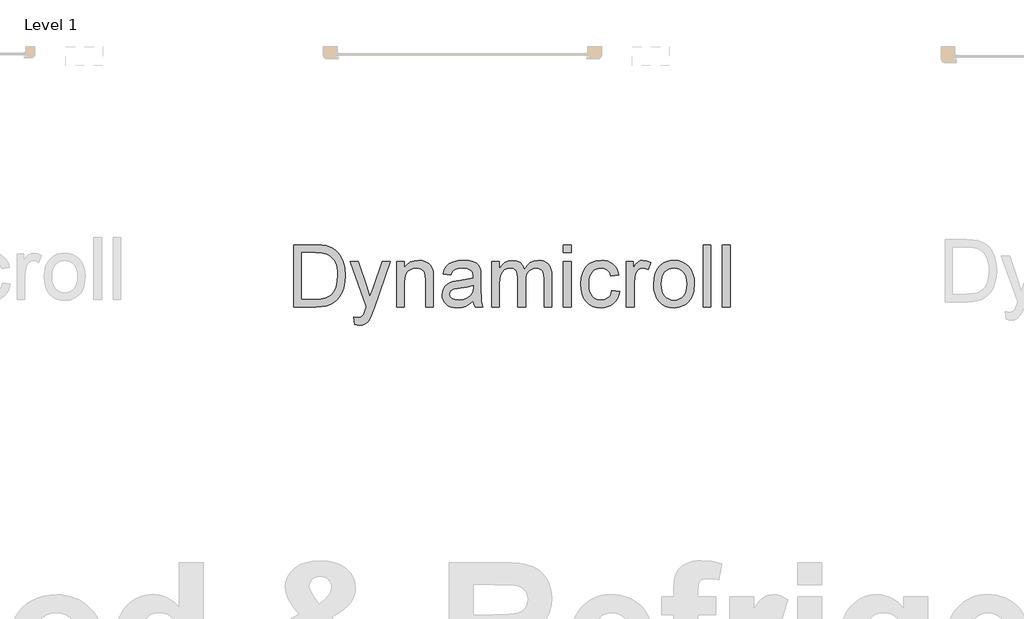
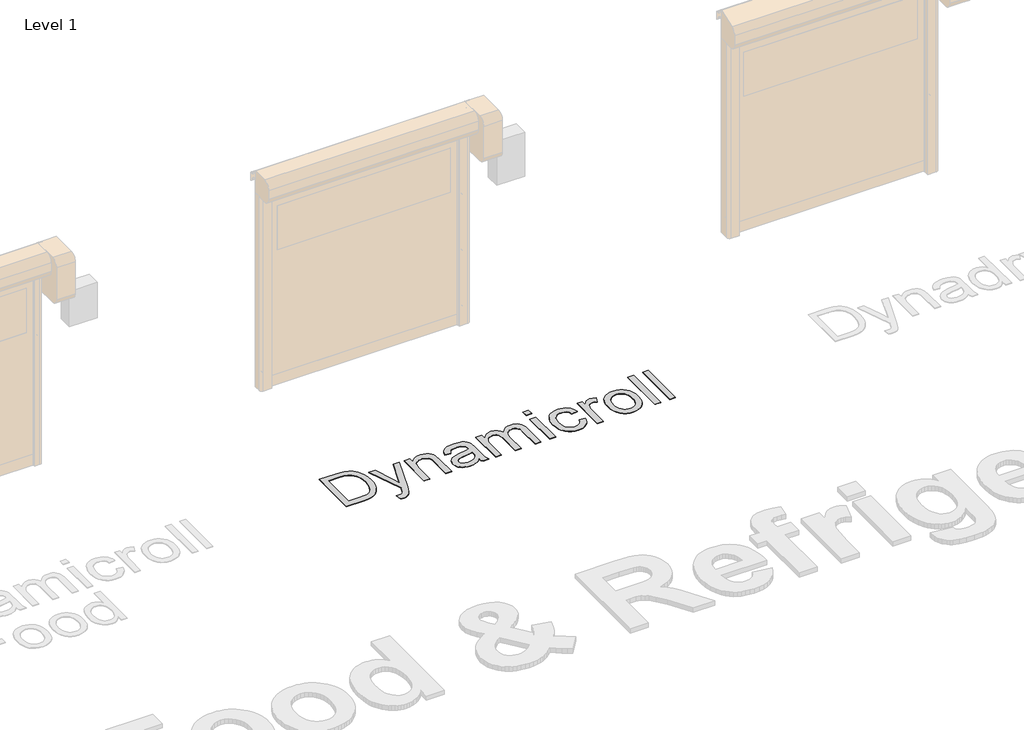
# One storey, part 2 of 17: 1 proxy.
"""IFC4 building model written with IfcOpenShell, lengths in millimetres."""

import ifcopenshell
import ifcopenshell.guid

model = None  # the IFC model being written
_history = None  # IfcOwnerHistory: only IFC2X3 demands one
_inside = {}  # id of a spatial element -> (the spatial element, [elements in it])
_under = {}  # id of a project, library or spatial element -> (it, [spatial elements below it])
_declared = {}  # id of a project -> (the project, [libraries it declares])
_typed = {}  # id of a type object -> (the type object, [elements of that type])
_made_of = {}  # id of a material, layer set ... -> (it, [elements and type objects made of it])


def new_model(schema):
    """Start an empty IFC model of exactly this schema.

    Asked for "IFC4X3", IfcOpenShell would pick the latest addendum, in which some entities
    have other attributes; the version numbers below select the first issue.
    IFC2X3 requires an IfcOwnerHistory on every rooted entity: one is made here for all.
    """
    global model, _history
    if schema == "IFC4X3":
        model = ifcopenshell.file(schema_version=(4, 3, 0, 0))
    else:
        model = ifcopenshell.file(schema=schema)
    _inside.clear()
    _under.clear()
    _declared.clear()
    _typed.clear()
    _made_of.clear()
    _history = None
    if model.schema == "IFC2X3":
        org = make("IfcOrganization", Name="unknown")
        user = make(
            "IfcPersonAndOrganization",
            ThePerson=make("IfcPerson", FamilyName="unknown"),
            TheOrganization=org,
        )
        app = make(
            "IfcApplication",
            ApplicationDeveloper=org,
            Version="unknown",
            ApplicationFullName="unknown",
            ApplicationIdentifier="unknown",
        )
        _history = make(
            "IfcOwnerHistory",
            OwningUser=user,
            OwningApplication=app,
            ChangeAction="ADDED",
            CreationDate=0,
        )
    return model


def make(cls, **values):
    """One entity of the class cls with the attributes given. An attribute that is None is left unset."""
    return model.create_entity(
        cls, **{name: value for name, value in values.items() if value is not None}
    )


def rooted(cls, **values):
    """An entity with a GlobalId (a new one), such as an element, a storey or a relation."""
    return make(cls, GlobalId=ifcopenshell.guid.new(), OwnerHistory=_history, **values)


def si_unit(unit_type, name, prefix=None):
    """IfcSIUnit, for example si_unit("LENGTHUNIT", "METRE", prefix="MILLI")."""
    return make("IfcSIUnit", UnitType=unit_type, Prefix=prefix, Name=name)


def assignment(units):
    """IfcUnitAssignment: the units of a project."""
    return None if units is None else make("IfcUnitAssignment", Units=units)


def point(xyz):
    """IfcCartesianPoint."""
    return None if xyz is None else make("IfcCartesianPoint", Coordinates=xyz)


def direction(xyz):
    """IfcDirection."""
    return None if xyz is None else make("IfcDirection", DirectionRatios=xyz)


def frame(location, z_axis=None, x_axis=None):
    """IfcAxis2Placement3D, a coordinate frame: its origin and axes. An axis left out is left unset."""
    return make(
        "IfcAxis2Placement3D",
        Location=point(location),
        Axis=direction(z_axis),
        RefDirection=direction(x_axis),
    )


def origin():
    """The frame at (0, 0, 0) with its axes left unset."""
    return frame((0.0, 0.0, 0.0))


def origin_with_axes():
    """The frame at (0, 0, 0) with the z axis (0, 0, 1) and the x axis (1, 0, 0) written out."""
    return frame((0.0, 0.0, 0.0), z_axis=(0.0, 0.0, 1.0), x_axis=(1.0, 0.0, 0.0))


def place(relative_to, where):
    """IfcLocalPlacement: puts the frame where relative to a parent placement (None: the world)."""
    return make(
        "IfcLocalPlacement", PlacementRelTo=relative_to, RelativePlacement=where
    )


def context(
    kind, dimensions, precision=None, world=None, true_north=None, identifier=None
):
    """IfcGeometricRepresentationContext, for example the 3D "Model" context."""
    return make(
        "IfcGeometricRepresentationContext",
        ContextIdentifier=identifier,
        ContextType=kind,
        CoordinateSpaceDimension=dimensions,
        Precision=precision,
        WorldCoordinateSystem=world,
        TrueNorth=true_north,
    )


def project(units=None, contexts=None):
    """IfcProject with its units and contexts."""
    return rooted(
        "IfcProject",
        Name="project",
        RepresentationContexts=contexts,
        UnitsInContext=assignment(units),
    )


def spatial(cls, under=None, at=None, **own):
    """A site, building, storey or space (cls), placed at a placement, below another one or the project."""
    s = rooted(cls, ObjectPlacement=at, **own)
    if under is not None:
        _under.setdefault(under.id(), (under, []))[1].append(s)
    return s


def polyline(points):
    """IfcPolyline through the points."""
    return make("IfcPolyline", Points=[point(p) for p in points])


def outline(outer, holes=None, kind="AREA"):
    """IfcArbitraryClosedProfileDef: a profile drawn as a closed curve; with holes, ...WithVoids."""
    if holes is None:
        return make("IfcArbitraryClosedProfileDef", ProfileType=kind, OuterCurve=outer)
    return make(
        "IfcArbitraryProfileDefWithVoids",
        ProfileType=kind,
        OuterCurve=outer,
        InnerCurves=holes,
    )


def extrude(swept, where, along, depth):
    """IfcExtrudedAreaSolid: the profile swept, set in the frame where, extruded along a direction by depth."""
    return make(
        "IfcExtrudedAreaSolid",
        SweptArea=swept,
        Position=where,
        ExtrudedDirection=direction(along),
        Depth=depth,
    )


def shape(context_of_items, identifier, shape_type, items):
    """IfcShapeRepresentation: the items that make up one representation, for example the "Body"."""
    return make(
        "IfcShapeRepresentation",
        ContextOfItems=context_of_items,
        RepresentationIdentifier=identifier,
        RepresentationType=shape_type,
        Items=items,
    )


def made_of(thing, what):
    """Note that an element or type object is made of a material, layer set ...; save() writes the relation."""
    if what is not None:
        _made_of.setdefault(what.id(), (what, []))[1].append(thing)
    return thing


def element(
    cls,
    number,
    at=None,
    inside=None,
    cuts=None,
    type_object=None,
    material=None,
    context=None,
    identifier="Body",
    shape_type=None,
    held_by="IfcProductDefinitionShape",
    body=None,
    shapes=None,
    **own,
):
    """One element of the class cls, such as IfcWall. Its Tag is "e" and its number.

    at: its placement. inside: the storey or other place that contains it. cuts: it is an
    opening in that element (IfcRelVoidsElement). A single representation is given by context,
    identifier, shape_type and body (its items); several are given by shapes. held_by: the class
    of the entity that holds the representations. save() writes the other relations.
    """
    e = rooted(cls, Tag="e%d" % number, ObjectPlacement=at, **own)
    if body is not None:
        shapes = [shape(context, identifier, shape_type, body)]
    if shapes is not None:
        e.Representation = make(held_by, Representations=shapes)
    if inside is not None:
        _inside.setdefault(inside.id(), (inside, []))[1].append(e)
    if cuts is not None:
        rooted(
            "IfcRelVoidsElement", RelatingBuildingElement=cuts, RelatedOpeningElement=e
        )
    if type_object is not None:
        _typed.setdefault(type_object.id(), (type_object, []))[1].append(e)
    return made_of(e, material)


def aggregate(whole, parts):
    """IfcRelAggregates: a whole, such as a stair, and the parts it consists of."""
    return rooted("IfcRelAggregates", RelatingObject=whole, RelatedObjects=parts)


def save(model, path):
    """Write the relations noted so far, then the file.

    IfcRelAggregates (storeys below a building ...), IfcRelContainedInSpatialStructure (elements
    in a storey), IfcRelDefinesByType, IfcRelAssociatesMaterial and IfcRelDeclares: one each for
    every whole, place, type object, material and project.
    """
    for whole, parts in _under.values():
        aggregate(whole, parts)
    for where, things in _inside.values():
        rooted(
            "IfcRelContainedInSpatialStructure",
            RelatedElements=things,
            RelatingStructure=where,
        )
    for kind, things in _typed.values():
        rooted("IfcRelDefinesByType", RelatedObjects=things, RelatingType=kind)
    for what, things in _made_of.values():
        rooted("IfcRelAssociatesMaterial", RelatedObjects=things, RelatingMaterial=what)
    for by, libraries in _declared.values():
        rooted("IfcRelDeclares", RelatingContext=by, RelatedDefinitions=libraries)
    model.write(path)


model = new_model("IFC4")

# Units and contexts
model_context = context("Model", 3, world=origin())
ifc_project = project(units=[si_unit("LENGTHUNIT", "METRE", prefix="MILLI")], contexts=[model_context])

# Site, building, storey
site = spatial("IfcSite", under=ifc_project)
building = spatial("IfcBuilding", under=site)
storey = spatial("IfcBuildingStorey", under=building, Name="Level 1", Elevation=0.0)

# Proxy
placement = place(None, origin())
element("IfcBuildingElementProxy", 1, Name="500mm", ObjectType="500mm", at=placement, inside=storey, context=model_context, shape_type="SweptSolid", body=[
    extrude(outline(polyline([(5132.2974666, 7547.2366873), (5132.2974666, 8049.5182381), (5305.5698863, 8049.5182381), (5357.3492772, 8047.7094849), (5395.2104658, 8042.2832255), (5435.2482896, 8028.3343665), (5469.0321195, 8006.3534173), (5487.6484813, 7988.3885132), (5503.7663112, 7968.0936898), (5517.3856093, 7945.4689471), (5528.5063754, 7920.5142851), (5543.3136257, 7864.5349081), (5548.2493758, 7801.075264), (5544.907781, 7747.1652233), (5534.8829967, 7699.7237743), (5519.6158939, 7659.3333969), (5500.5473438, 7626.5765709), (5478.5970514, 7600.7175324), (5454.6847217, 7581.0205172), (5427.2315278, 7566.4125363), (5394.6586428, 7555.8206005), (5356.9047531, 7549.3826656), (5313.9085449, 7547.2366873), (5132.2974666, 7547.2366873)]), holes=[polyline([(5195.0826604, 7610.0218811), (5306.183023, 7610.0218811), (5352.1376156, 7612.2904868), (5386.9944346, 7619.0963037), (5413.2979973, 7630.0407931), (5433.5928207, 7644.725416), (5455.4051573, 7671.9026984), (5471.7912345, 7707.0814142), (5482.0459451, 7750.4148476), (5485.464182, 7802.0562826), (5483.7895525, 7838.507257), (5478.765664, 7870.4823337), (5470.3925165, 7897.9815129), (5458.67011, 7921.0047944), (5444.5488063, 7940.0733445), (5428.9789673, 7955.7083293), (5411.9605929, 7967.9097488), (5393.4936832, 7976.677603), (5357.379934, 7984.2191839), (5304.4662403, 7986.7330442), (5195.0826604, 7986.7330442), (5195.0826604, 7610.0218811)])]), origin_with_axes(), (0.0, 0.0, 1.0), 5.0),
    extrude(outline(polyline([(5626.7308681, 7405.9700012), (5618.8827189, 7466.4252757), (5650.7658251, 7460.9070458), (5667.5351128, 7462.6391568), (5680.5642668, 7467.83549), (5690.7116785, 7476.1281633), (5698.8357392, 7487.1492948), (5716.0035656, 7533.3797988), (5720.9086589, 7548.585588), (5587.490122, 7916.0997011), (5653.7088811, 7916.0997011), (5724.4648515, 7711.3120572), (5749.1129452, 7629.3969996), (5773.7610389, 7701.7471253), (5846.4790466, 7916.0997011), (5912.2072964, 7916.0997011), (5783.8164801, 7538.4075194), (5750.4618458, 7456.4924618), (5733.3859899, 7430.3421833), (5714.0415283, 7412.2239951), (5691.5700698, 7401.6473877), (5665.113223, 7398.1218519), (5646.933721, 7400.0838892), (5626.7308681, 7405.9700012)])), origin_with_axes(), (0.0, 0.0, 1.0), 5.0),
    extrude(outline(polyline([(5964.201285, 7547.2366873), (5964.201285, 7916.0997011), (6026.9864789, 7916.0997011), (6026.9864789, 7864.5962218), (6048.7988155, 7890.5625593), (6074.9950792, 7909.1099432), (6105.5752701, 7920.2383736), (6140.5393881, 7923.9478504), (6171.4874609, 7920.9588092), (6199.8297029, 7911.9916855), (6223.4661211, 7898.1654539), (6240.2967224, 7880.5990886), (6251.7163927, 7859.338575), (6259.1200178, 7834.4298982), (6262.4309558, 7773.729369), (6262.4309558, 7547.2366873), (6199.6457619, 7547.2366873), (6199.6457619, 7765.2680831), (6197.8370088, 7797.7336692), (6192.4107494, 7820.8182644), (6182.4012934, 7837.3576258), (6166.8429507, 7850.1875103), (6146.9006809, 7858.41887), (6123.7394436, 7861.1626565), (6104.6747256, 7859.6221507), (6086.9665725, 7855.0006331), (6070.6149842, 7847.2981038), (6055.6199608, 7836.5145628), (6043.0928125, 7821.4237368), (6034.1448494, 7800.7993525), (6028.7760715, 7774.6414098), (6026.9864789, 7742.9499087), (6026.9864789, 7547.2366873), (5964.201285, 7547.2366873)])), origin_with_axes(), (0.0, 0.0, 1.0), 5.0),
    extrude(outline(polyline([(6584.2050742, 7594.3255827), (6554.2073632, 7568.6044999), (6523.320604, 7551.7738986), (6490.8396895, 7542.4848782), (6456.0595126, 7539.3885381), (6428.1043131, 7541.2509407), (6403.590343, 7546.8381485), (6382.5176025, 7556.1501615), (6364.8860914, 7569.1869797), (6350.9640572, 7585.1208686), (6341.019747, 7603.1240937), (6335.0531609, 7623.1966551), (6333.0642989, 7645.3385527), (6336.0686685, 7671.3662038), (6345.0817774, 7695.002622), (6358.9846511, 7715.2361318), (6376.6583153, 7731.0550576), (6397.4283196, 7743.0112224), (6420.6202137, 7751.6564493), (6474.9441217, 7761.0987538), (6539.1395298, 7771.0315677), (6583.8371922, 7782.6811642), (6584.2050742, 7796.66068), (6579.8824608, 7824.6810253), (6566.9146205, 7843.0138114), (6553.8394812, 7850.9539312), (6537.9132565, 7856.6254452), (6497.5075507, 7861.1626565), (6460.1062145, 7858.1429585), (6433.9865929, 7849.0838643), (6416.1749729, 7832.3299052), (6403.6976419, 7806.2256119), (6340.9124481, 7814.0737611), (6351.8109522, 7848.409414), (6368.0744021, 7875.387427), (6391.2203109, 7896.0194756), (6422.766192, 7911.3172352), (6461.3478163, 7920.7901966), (6505.6009546, 7923.9478504), (6548.0453398, 7921.1580786), (6581.6912139, 7912.7887632), (6607.0597432, 7900.2041333), (6624.6720937, 7884.7684179), (6636.3523471, 7865.6845394), (6643.9245848, 7842.1554201), (6646.9902681, 7787.2183755), (6646.9902681, 7709.1047652), (6650.1785787, 7600.0277536), (6654.899731, 7573.065069), (6662.6865665, 7547.2366873), (6599.9013727, 7547.2366873), (6589.8459315, 7569.0643524), (6584.2050742, 7594.3255827)]), holes=[polyline([(6584.2050742, 7719.8959704), (6542.0212721, 7709.4419903), (6482.9148982, 7700.6434793), (6428.8975586, 7690.4654108), (6414.8414007, 7683.5063097), (6404.4334059, 7673.910721), (6397.995471, 7662.4144086), (6395.8494927, 7649.7531366), (6400.5246597, 7631.0831254), (6414.5501608, 7615.7853657), (6437.6194276, 7605.5766404), (6469.4258917, 7602.1737319), (6503.148408, 7605.929194), (6532.9468496, 7617.1955801), (6557.1044339, 7633.7962551), (6573.9043784, 7653.5545839), (6581.3539888, 7673.910721), (6583.8371922, 7702.1150073), (6584.2050742, 7719.8959704)])]), origin_with_axes(), (0.0, 0.0, 1.0), 5.0),
    extrude(outline(polyline([(6733.3199096, 7547.2366873), (6733.3199096, 7916.0997011), (6796.1051035, 7916.0997011), (6796.1051035, 7855.3991719), (6814.9897125, 7883.2815615), (6839.2699242, 7905.1245549), (6868.118004, 7919.2420265), (6900.7062174, 7923.9478504), (6935.6243501, 7919.150056), (6963.6140386, 7904.756673), (6984.5219987, 7881.718063), (6998.1949461, 7850.984588), (7021.0802719, 7882.9060153), (7047.1845652, 7905.7070348), (7076.5078259, 7919.3876465), (7109.050054, 7923.9478504), (7134.1848249, 7922.0509588), (7156.2462483, 7916.3602842), (7175.2343242, 7906.8758265), (7191.1490526, 7893.5975858), (7203.7298504, 7876.3722778), (7212.7161346, 7855.0466184), (7218.1079051, 7829.6206075), (7219.9051619, 7800.0942453), (7219.9051619, 7547.2366873), (7157.1199681, 7547.2366873), (7157.1199681, 7773.1162323), (7155.6637685, 7804.4321872), (7151.2951698, 7825.5394167), (7143.1097954, 7839.9941134), (7130.2032687, 7851.35247), (7113.6025937, 7858.7101099), (7094.3347742, 7861.1626565), (7076.5423148, 7859.5914938), (7060.3210181, 7854.8780058), (7045.670884, 7847.0221923), (7032.5919127, 7836.0240535), (7021.8351964, 7821.5616926), (7014.1518277, 7803.3132128), (7009.5418064, 7781.2786141), (7008.0051327, 7755.4578966), (7008.0051327, 7547.2366873), (6945.2199388, 7547.2366873), (6945.2199388, 7780.1059903), (6941.5871041, 7815.6066028), (6930.6886, 7840.9291468), (6922.2618031, 7849.7813073), (6911.512751, 7856.1042791), (6883.0478817, 7861.1626565), (6858.8596405, 7857.7904049), (6836.5721229, 7847.67365), (6818.1780232, 7831.0576466), (6805.6700353, 7808.1876492), (6798.4963364, 7776.4578271), (6796.1051035, 7733.2623495), (6796.1051035, 7547.2366873), (6733.3199096, 7547.2366873)])), origin_with_axes(), (0.0, 0.0, 1.0), 5.0),
    extrude(outline(polyline([(7314.0829527, 7986.7330442), (7314.0829527, 8049.5182381), (7376.8681465, 8049.5182381), (7376.8681465, 7986.7330442), (7314.0829527, 7986.7330442)])), origin_with_axes(), (0.0, 0.0, 1.0), 5.0),
    extrude(outline(polyline([(7314.0829527, 7547.2366873), (7314.0829527, 7916.0997011), (7376.8681465, 7916.0997011), (7376.8681465, 7547.2366873), (7314.0829527, 7547.2366873)])), origin_with_axes(), (0.0, 0.0, 1.0), 5.0),
    extrude(outline(polyline([(7706.4904142, 7680.6552242), (7769.275608, 7672.807075), (7762.4467985, 7643.1810781), (7751.7705564, 7616.9656538), (7737.2468818, 7594.1608022), (7718.8757747, 7574.7665233), (7697.4313201, 7559.2886548), (7673.687603, 7548.2330344), (7647.6446234, 7541.5996621), (7619.3023813, 7539.3885381), (7584.0891766, 7542.4733819), (7552.5164708, 7551.7279133), (7524.5842639, 7567.1521324), (7500.2925559, 7588.7460391), (7480.6300297, 7616.1034304), (7466.5853681, 7648.8181032), (7458.1585711, 7686.8900576), (7455.3496388, 7730.3192936), (7460.1474332, 7786.1913716), (7474.5408162, 7834.6138392), (7485.3933351, 7855.5639524), (7498.7597142, 7873.7166296), (7514.6399537, 7889.0718708), (7533.0340535, 7901.629676), (7574.0375675, 7918.3683068), (7618.44399, 7923.9478504), (7646.2995548, 7922.0317983), (7671.4956394, 7916.2836421), (7694.0322437, 7906.7033818), (7713.9093678, 7893.2910174), (7730.7897864, 7876.3531172), (7744.3362744, 7856.1962496), (7754.5488319, 7832.8204145), (7761.4274588, 7806.2256119), (7698.642265, 7798.3774627), (7687.2532515, 7825.7693429), (7669.5182737, 7845.4050444), (7646.4183501, 7857.2232535), (7618.9344993, 7861.1626565), (7597.6011757, 7859.2236118), (7578.360181, 7853.4064778), (7561.211515, 7843.7112544), (7546.155178, 7830.1379416), (7533.8962769, 7812.3723069), (7525.139919, 7790.1001178), (7519.8861042, 7763.3213742), (7518.1348327, 7732.0360762), (7519.8477832, 7700.2794294), (7524.9866348, 7673.1902854), (7533.5513875, 7650.7686442), (7545.5420413, 7633.0145058), (7560.2994743, 7619.5216673), (7577.1645645, 7609.8839254), (7596.1373119, 7604.1012803), (7617.2177167, 7602.1737319), (7649.729288, 7606.9868547), (7676.3854043, 7621.426223), (7687.1651131, 7632.3477197), (7695.7758511, 7645.8597188), (7706.4904142, 7680.6552242)])), origin_with_axes(), (0.0, 0.0, 1.0), 5.0),
    extrude(outline(polyline([(7824.2126526, 7547.2366873), (7824.2126526, 7916.0997011), (7879.1496973, 7916.0997011), (7879.1496973, 7861.5305385), (7899.4445207, 7893.1683901), (7918.1451887, 7911.8077445), (7936.9071705, 7920.9128239), (7957.3859349, 7923.9478504), (7988.6559045, 7919.1040708), (8020.4163834, 7904.572732), (7999.4471097, 7848.2867867), (7977.37419, 7857.9436891), (7955.3012703, 7861.1626565), (7936.5546169, 7858.0663164), (7919.8006577, 7848.777296), (7906.265666, 7834.0007025), (7897.175915, 7814.4416431), (7889.5423636, 7779.3702263), (7886.9978465, 7741.1104988), (7886.9978465, 7547.2366873), (7824.2126526, 7547.2366873)])), origin_with_axes(), (0.0, 0.0, 1.0), 5.0),
    extrude(outline(polyline([(8043.9608311, 7731.6681942), (8047.3560753, 7779.4392041), (8057.5418081, 7820.6036666), (8074.5180293, 7855.1615815), (8098.2847391, 7883.1129489), (8122.2123972, 7900.9782183), (8148.6232587, 7913.739125), (8177.5173238, 7921.395669), (8208.8945923, 7923.9478504), (8243.5329814, 7920.8400139), (8274.8527683, 7911.5165046), (8302.8539531, 7895.9773224), (8327.5365357, 7874.2224674), (8347.6819071, 7846.9877034), (8362.071458, 7815.0087945), (8370.7051886, 7778.2857408), (8373.5830988, 7736.8185422), (8368.4940645, 7673.3895548), (8362.1327717, 7647.3542395), (8353.2269617, 7625.105043), (8341.8877656, 7605.8870408), (8328.2263145, 7588.9453085), (8312.2426082, 7574.2798461), (8293.9366468, 7561.8906534), (8253.2090443, 7545.0140669), (8208.8945923, 7539.3885381), (8173.7503654, 7542.4848782), (8142.1393386, 7551.7738986), (8114.0615117, 7567.2555992), (8089.5168848, 7588.9299801), (8069.5861113, 7616.4291592), (8055.3498445, 7649.3852546), (8046.8080845, 7687.7982663), (8043.9608311, 7731.6681942)]), holes=[polyline([(8106.7460249, 7731.7908216), (8108.5624423, 7701.3370901), (8114.0116943, 7674.9683817), (8123.0937811, 7652.6846963), (8135.8087026, 7634.4860338), (8151.2750748, 7620.3494017), (8168.6115138, 7610.2518074), (8187.8180196, 7604.1932508), (8208.8945923, 7602.1737319), (8229.863866, 7604.2047471), (8248.9937297, 7610.2977926), (8266.2841835, 7620.4528686), (8281.7352273, 7634.6699748), (8294.4501488, 7653.0487462), (8303.5322355, 7675.6888173), (8308.9814876, 7702.5901882), (8310.7979049, 7733.7528589), (8308.9699913, 7763.2409), (8303.4862503, 7788.9198297), (8294.346682, 7810.7896479), (8281.5512863, 7828.8503546), (8266.042761, 7842.9869867), (8248.7638035, 7853.084581), (8229.7144139, 7859.1431377), (8208.8945923, 7861.1626565), (8187.8180196, 7859.1508019), (8168.6115138, 7853.1152379), (8151.2750748, 7843.0559646), (8135.8087026, 7828.9729819), (8123.0937811, 7810.827969), (8114.0116943, 7788.5826046), (8108.5624423, 7762.2368888), (8106.7460249, 7731.7908216)])]), origin_with_axes(), (0.0, 0.0, 1.0), 5.0),
    extrude(outline(polyline([(8444.2164419, 7547.2366873), (8444.2164419, 8049.5182381), (8507.0016357, 8049.5182381), (8507.0016357, 7547.2366873), (8444.2164419, 7547.2366873)])), origin_with_axes(), (0.0, 0.0, 1.0), 5.0),
    extrude(outline(polyline([(8601.1794265, 7547.2366873), (8601.1794265, 8049.5182381), (8663.9646203, 8049.5182381), (8663.9646203, 7547.2366873), (8601.1794265, 7547.2366873)])), origin_with_axes(), (0.0, 0.0, 1.0), 5.0),
])

save(model, "model.ifc")
